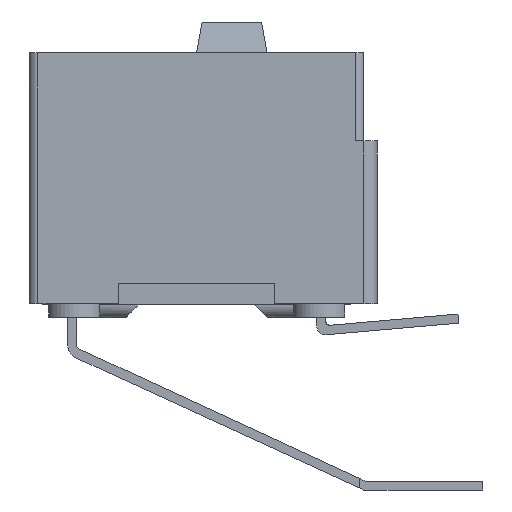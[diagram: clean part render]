
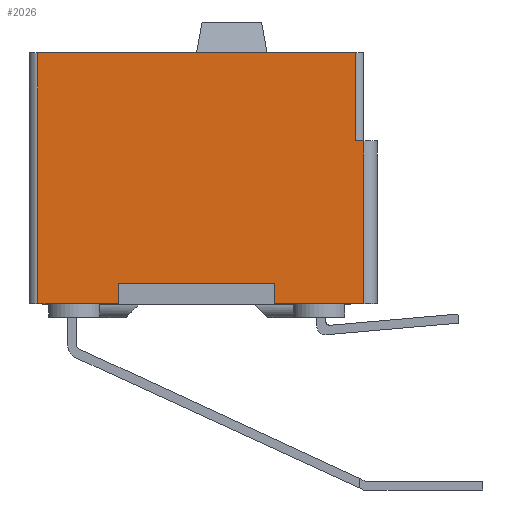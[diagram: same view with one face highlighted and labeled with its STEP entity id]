
A CAD part, left-side view. The second image highlights one B-rep face of the part: STEP entity #2026.
In plain terms, the highlighted planar face has unit normal (-1, 0, 0).
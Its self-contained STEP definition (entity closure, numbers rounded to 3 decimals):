
#535 = CARTESIAN_POINT ( 'NONE',  ( 0., -1.295, -7.239 ) ) ;
#550 = ORIENTED_EDGE ( 'NONE', *, *, #15371, .F. ) ;
#629 = PLANE ( 'NONE',  #17465 ) ;
#788 = VECTOR ( 'NONE', #856, 1000. ) ;
#856 = DIRECTION ( 'NONE',  ( 0., 1., 0. ) ) ;
#900 = CARTESIAN_POINT ( 'NONE',  ( 0., -7.076, -6.639 ) ) ;
#1123 = CARTESIAN_POINT ( 'NONE',  ( 0., -9.402, 0. ) ) ;
#1231 = DIRECTION ( 'NONE',  ( 0., -1., 0. ) ) ;
#1542 = ORIENTED_EDGE ( 'NONE', *, *, #3172, .T. ) ;
#1610 = LINE ( 'NONE', #19810, #22838 ) ;
#1753 = DIRECTION ( 'NONE',  ( 0., 0., 1. ) ) ;
#2026 = ADVANCED_FACE ( 'NONE', ( #12878 ), #629, .T. ) ;
#2952 = VERTEX_POINT ( 'NONE', #12604 ) ;
#3044 = CARTESIAN_POINT ( 'NONE',  ( 0., -0.25, -7.239 ) ) ;
#3078 = CARTESIAN_POINT ( 'NONE',  ( 0., -2.576, -6.639 ) ) ;
#3086 = VECTOR ( 'NONE', #19009, 1000. ) ;
#3172 = EDGE_CURVE ( 'NONE', #23813, #12820, #15950, .T. ) ;
#3241 = EDGE_CURVE ( 'NONE', #11337, #22569, #21234, .T. ) ;
#4444 = LINE ( 'NONE', #27494, #6113 ) ;
#4594 = DIRECTION ( 'NONE',  ( 0., 0., 1. ) ) ;
#4984 = EDGE_CURVE ( 'NONE', #16405, #12820, #23861, .T. ) ;
#5830 = CARTESIAN_POINT ( 'NONE',  ( 0., -8.357, -7.239 ) ) ;
#6010 = CARTESIAN_POINT ( 'NONE',  ( 0., -0.25, -7.239 ) ) ;
#6113 = VECTOR ( 'NONE', #11401, 1000. ) ;
#6278 = CARTESIAN_POINT ( 'NONE',  ( 0., -9.402, -2.54 ) ) ;
#6505 = LINE ( 'NONE', #9222, #18783 ) ;
#6782 = CARTESIAN_POINT ( 'NONE',  ( 0., -0.25, 0. ) ) ;
#7385 = VERTEX_POINT ( 'NONE', #1123 ) ;
#7768 = VECTOR ( 'NONE', #29893, 1000. ) ;
#8128 = DIRECTION ( 'NONE',  ( 0., -1., 0. ) ) ;
#8649 = EDGE_CURVE ( 'NONE', #22569, #28740, #4444, .T. ) ;
#9222 = CARTESIAN_POINT ( 'NONE',  ( 0., -0.25, -7.239 ) ) ;
#9431 = CARTESIAN_POINT ( 'NONE',  ( 0., -7.076, -7.239 ) ) ;
#9769 = EDGE_CURVE ( 'NONE', #19932, #7385, #12738, .T. ) ;
#10447 = VERTEX_POINT ( 'NONE', #27715 ) ;
#10849 = CARTESIAN_POINT ( 'NONE',  ( 0., -9.652, -2.54 ) ) ;
#11337 = VERTEX_POINT ( 'NONE', #900 ) ;
#11401 = DIRECTION ( 'NONE',  ( 0., -1., 0. ) ) ;
#11555 = ORIENTED_EDGE ( 'NONE', *, *, #20176, .T. ) ;
#11557 = ORIENTED_EDGE ( 'NONE', *, *, #29037, .F. ) ;
#11823 = CARTESIAN_POINT ( 'NONE',  ( 0., -0.25, -7.239 ) ) ;
#12263 = CARTESIAN_POINT ( 'NONE',  ( 0., -9.652, -2.54 ) ) ;
#12282 = DIRECTION ( 'NONE',  ( -1., 0., 0. ) ) ;
#12604 = CARTESIAN_POINT ( 'NONE',  ( 0., -9.402, -2.54 ) ) ;
#12738 = LINE ( 'NONE', #21995, #17203 ) ;
#12820 = VERTEX_POINT ( 'NONE', #13357 ) ;
#12878 = FACE_OUTER_BOUND ( 'NONE', #16234, .T. ) ;
#13357 = CARTESIAN_POINT ( 'NONE',  ( 0., -2.576, -7.239 ) ) ;
#13388 = DIRECTION ( 'NONE',  ( 0., 1., 0. ) ) ;
#13414 = DIRECTION ( 'NONE',  ( 0., 0., -1. ) ) ;
#13622 = DIRECTION ( 'NONE',  ( 0., -1., 0. ) ) ;
#13972 = LINE ( 'NONE', #27651, #25631 ) ;
#15371 = EDGE_CURVE ( 'NONE', #16906, #10447, #24279, .T. ) ;
#15455 = VECTOR ( 'NONE', #13388, 1000. ) ;
#15687 = ORIENTED_EDGE ( 'NONE', *, *, #4984, .F. ) ;
#15950 = LINE ( 'NONE', #11823, #7768 ) ;
#16234 = EDGE_LOOP ( 'NONE', ( #15687, #11557, #17957, #27138, #19722, #550, #19733, #11555, #17307, #26044, #23278, #1542 ) ) ;
#16405 = VERTEX_POINT ( 'NONE', #21935 ) ;
#16420 = EDGE_CURVE ( 'NONE', #23645, #19932, #1610, .T. ) ;
#16906 = VERTEX_POINT ( 'NONE', #12263 ) ;
#17140 = CARTESIAN_POINT ( 'NONE',  ( 0., -7.076, -6.639 ) ) ;
#17203 = VECTOR ( 'NONE', #1231, 1000. ) ;
#17307 = ORIENTED_EDGE ( 'NONE', *, *, #9769, .F. ) ;
#17465 = AXIS2_PLACEMENT_3D ( 'NONE', #3044, #12282, #28527 ) ;
#17541 = LINE ( 'NONE', #27245, #23315 ) ;
#17957 = ORIENTED_EDGE ( 'NONE', *, *, #3241, .T. ) ;
#18783 = VECTOR ( 'NONE', #13622, 1000. ) ;
#19009 = DIRECTION ( 'NONE',  ( 0., 0., -1. ) ) ;
#19508 = CARTESIAN_POINT ( 'NONE',  ( 0., -2.576, -6.639 ) ) ;
#19722 = ORIENTED_EDGE ( 'NONE', *, *, #26842, .T. ) ;
#19733 = ORIENTED_EDGE ( 'NONE', *, *, #20763, .T. ) ;
#19804 = LINE ( 'NONE', #19508, #788 ) ;
#19810 = CARTESIAN_POINT ( 'NONE',  ( 0., -0.25, -7.239 ) ) ;
#19932 = VERTEX_POINT ( 'NONE', #6782 ) ;
#20176 = EDGE_CURVE ( 'NONE', #2952, #7385, #13972, .T. ) ;
#20392 = LINE ( 'NONE', #6278, #15455 ) ;
#20763 = EDGE_CURVE ( 'NONE', #16906, #2952, #20392, .T. ) ;
#21234 = LINE ( 'NONE', #17140, #28611 ) ;
#21528 = DIRECTION ( 'NONE',  ( 0., 0., -1. ) ) ;
#21935 = CARTESIAN_POINT ( 'NONE',  ( 0., -2.576, -6.639 ) ) ;
#21995 = CARTESIAN_POINT ( 'NONE',  ( 0., -0.25, 0. ) ) ;
#22569 = VERTEX_POINT ( 'NONE', #9431 ) ;
#22797 = EDGE_CURVE ( 'NONE', #23645, #23813, #6505, .T. ) ;
#22838 = VECTOR ( 'NONE', #1753, 1000. ) ;
#23278 = ORIENTED_EDGE ( 'NONE', *, *, #22797, .T. ) ;
#23315 = VECTOR ( 'NONE', #8128, 1000. ) ;
#23645 = VERTEX_POINT ( 'NONE', #6010 ) ;
#23813 = VERTEX_POINT ( 'NONE', #535 ) ;
#23861 = LINE ( 'NONE', #3078, #3086 ) ;
#24279 = LINE ( 'NONE', #10849, #28585 ) ;
#25631 = VECTOR ( 'NONE', #4594, 1000. ) ;
#26044 = ORIENTED_EDGE ( 'NONE', *, *, #16420, .F. ) ;
#26842 = EDGE_CURVE ( 'NONE', #28740, #10447, #17541, .T. ) ;
#27138 = ORIENTED_EDGE ( 'NONE', *, *, #8649, .T. ) ;
#27245 = CARTESIAN_POINT ( 'NONE',  ( 0., -0.25, -7.239 ) ) ;
#27494 = CARTESIAN_POINT ( 'NONE',  ( 0., -0.25, -7.239 ) ) ;
#27651 = CARTESIAN_POINT ( 'NONE',  ( 0., -9.402, -7.239 ) ) ;
#27715 = CARTESIAN_POINT ( 'NONE',  ( 0., -9.652, -7.239 ) ) ;
#28527 = DIRECTION ( 'NONE',  ( 0., -1., 0. ) ) ;
#28585 = VECTOR ( 'NONE', #13414, 1000. ) ;
#28611 = VECTOR ( 'NONE', #21528, 1000. ) ;
#28740 = VERTEX_POINT ( 'NONE', #5830 ) ;
#29037 = EDGE_CURVE ( 'NONE', #11337, #16405, #19804, .T. ) ;
#29893 = DIRECTION ( 'NONE',  ( 0., -1., 0. ) ) ;
